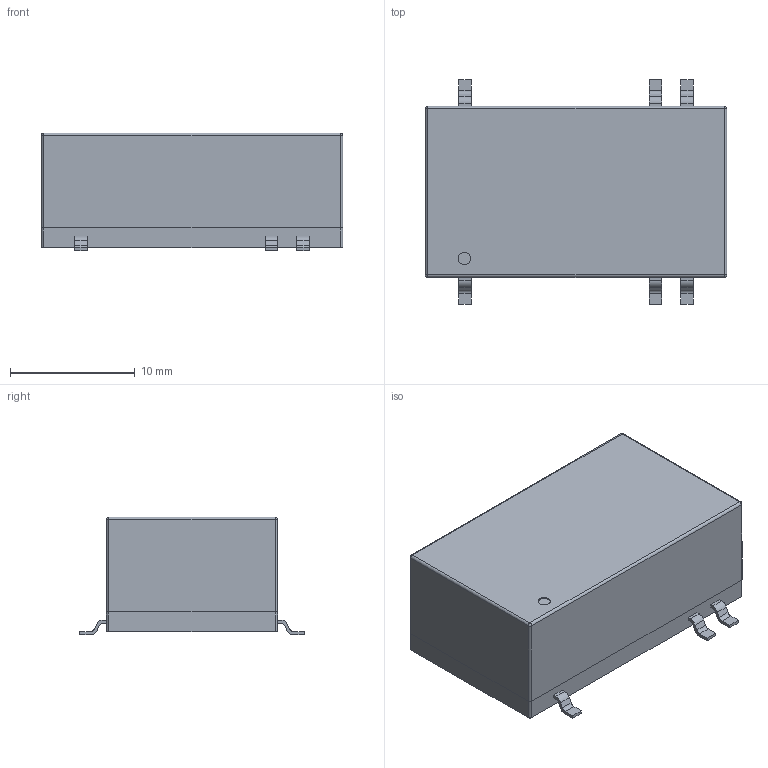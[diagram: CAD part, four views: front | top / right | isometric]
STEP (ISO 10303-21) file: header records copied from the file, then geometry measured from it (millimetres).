
FILE_DESCRIPTION (( 'STEP AP214' ), '1' );
FILE_NAME ('tes2m.STEP', '2016-03-29T06:34:13', ( '' ), ( '' ), 'SwSTEP 2.0', 'SolidWorks 2013', '' );
FILE_SCHEMA (( 'AUTOMOTIVE_DESIGN' ));
Length unit declared in the file: millimetre
Products named in the file (3): cover; base; tes2m
Assembly tree (2 placements, depth 2):
  tes2m
    base
    cover
Bounding box: 24.15 x 18 x 9.45 mm (x, y, z)
Volume: 1347.1 mm3; surface area: 2666.9 mm2
Topology: 2 solids, 2 shells, 158 faces, 406 edges, 264 vertices
Faces by surface type: plane 108, cylinder 46, bspline 4
Entity records: 6638 total; most frequent: CARTESIAN_POINT 889, DIRECTION 812, ORIENTED_EDGE 804, EDGE_CURVE 402, VECTOR 310, LINE 310, VERTEX_POINT 264, AXIS2_PLACEMENT_3D 251
